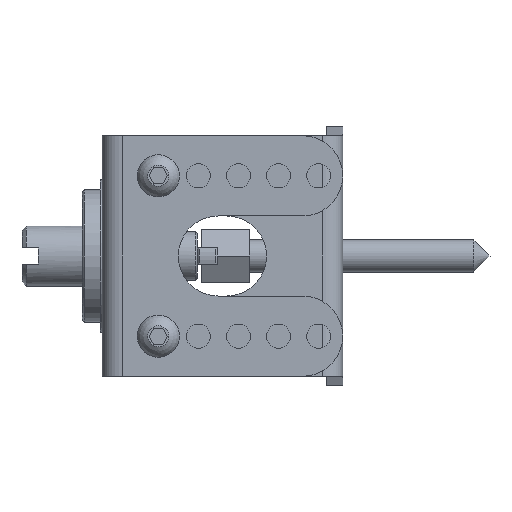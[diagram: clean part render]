
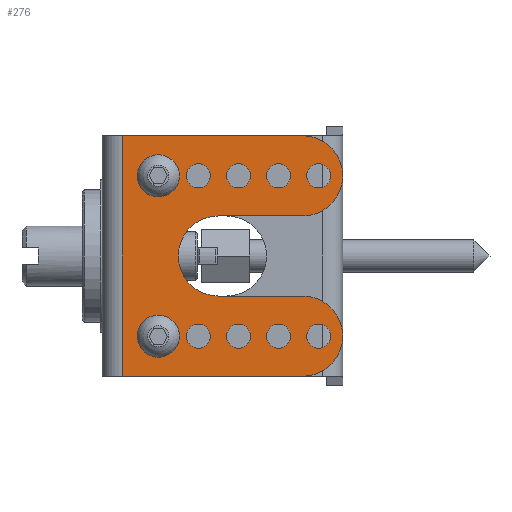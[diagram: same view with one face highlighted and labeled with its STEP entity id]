
A CAD part, left-side view. The second image highlights one B-rep face of the part: STEP entity #276.
In plain terms, the highlighted planar face has unit normal (-1, 0, 0).
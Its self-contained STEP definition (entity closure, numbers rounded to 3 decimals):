
#276 = ADVANCED_FACE( '', ( #545, #546, #547, #548, #549, #550, #551, #552, #553, #554, #555 ), #556, .F. );
#545 = FACE_BOUND( '', #1043, .T. );
#546 = FACE_BOUND( '', #1044, .T. );
#547 = FACE_BOUND( '', #1045, .T. );
#548 = FACE_BOUND( '', #1046, .T. );
#549 = FACE_BOUND( '', #1047, .T. );
#550 = FACE_BOUND( '', #1048, .T. );
#551 = FACE_BOUND( '', #1049, .T. );
#552 = FACE_BOUND( '', #1050, .T. );
#553 = FACE_BOUND( '', #1051, .T. );
#554 = FACE_BOUND( '', #1052, .T. );
#555 = FACE_OUTER_BOUND( '', #1053, .T. );
#556 = PLANE( '', #1054 );
#1043 = EDGE_LOOP( '', ( #1689 ) );
#1044 = EDGE_LOOP( '', ( #1690 ) );
#1045 = EDGE_LOOP( '', ( #1691 ) );
#1046 = EDGE_LOOP( '', ( #1692 ) );
#1047 = EDGE_LOOP( '', ( #1693 ) );
#1048 = EDGE_LOOP( '', ( #1694 ) );
#1049 = EDGE_LOOP( '', ( #1695 ) );
#1050 = EDGE_LOOP( '', ( #1696 ) );
#1051 = EDGE_LOOP( '', ( #1697 ) );
#1052 = EDGE_LOOP( '', ( #1698 ) );
#1053 = EDGE_LOOP( '', ( #1699, #1700, #1701, #1702, #1703, #1704, #1705, #1706 ) );
#1054 = AXIS2_PLACEMENT_3D( '', #1707, #1708, #1709 );
#1689 = ORIENTED_EDGE( '', *, *, #2964, .F. );
#1690 = ORIENTED_EDGE( '', *, *, #2888, .F. );
#1691 = ORIENTED_EDGE( '', *, *, #2965, .T. );
#1692 = ORIENTED_EDGE( '', *, *, #2966, .T. );
#1693 = ORIENTED_EDGE( '', *, *, #2967, .T. );
#1694 = ORIENTED_EDGE( '', *, *, #2968, .T. );
#1695 = ORIENTED_EDGE( '', *, *, #2969, .T. );
#1696 = ORIENTED_EDGE( '', *, *, #2970, .T. );
#1697 = ORIENTED_EDGE( '', *, *, #2971, .T. );
#1698 = ORIENTED_EDGE( '', *, *, #2972, .T. );
#1699 = ORIENTED_EDGE( '', *, *, #2973, .F. );
#1700 = ORIENTED_EDGE( '', *, *, #2946, .F. );
#1701 = ORIENTED_EDGE( '', *, *, #2974, .F. );
#1702 = ORIENTED_EDGE( '', *, *, #2975, .F. );
#1703 = ORIENTED_EDGE( '', *, *, #2976, .F. );
#1704 = ORIENTED_EDGE( '', *, *, #2977, .T. );
#1705 = ORIENTED_EDGE( '', *, *, #2978, .F. );
#1706 = ORIENTED_EDGE( '', *, *, #2979, .F. );
#1707 = CARTESIAN_POINT( '', ( 0., 10., 20. ) );
#1708 = DIRECTION( '', ( 1., 0., 0. ) );
#1709 = DIRECTION( '', ( 0., 0., -1. ) );
#2888 = EDGE_CURVE( '', #3341, #3341, #3342, .F. );
#2946 = EDGE_CURVE( '', #3444, #3446, #3447, .T. );
#2964 = EDGE_CURVE( '', #3480, #3480, #3481, .F. );
#2965 = EDGE_CURVE( '', #3482, #3482, #3483, .T. );
#2966 = EDGE_CURVE( '', #3484, #3484, #3485, .T. );
#2967 = EDGE_CURVE( '', #3486, #3486, #3487, .T. );
#2968 = EDGE_CURVE( '', #3488, #3488, #3489, .T. );
#2969 = EDGE_CURVE( '', #3490, #3490, #3491, .T. );
#2970 = EDGE_CURVE( '', #3492, #3492, #3493, .T. );
#2971 = EDGE_CURVE( '', #3494, #3494, #3495, .T. );
#2972 = EDGE_CURVE( '', #3496, #3496, #3497, .T. );
#2973 = EDGE_CURVE( '', #3446, #3498, #3499, .T. );
#2974 = EDGE_CURVE( '', #3500, #3444, #3501, .T. );
#2975 = EDGE_CURVE( '', #3502, #3500, #3503, .T. );
#2976 = EDGE_CURVE( '', #3504, #3502, #3505, .T. );
#2977 = EDGE_CURVE( '', #3504, #3506, #3507, .T. );
#2978 = EDGE_CURVE( '', #3508, #3506, #3509, .T. );
#2979 = EDGE_CURVE( '', #3498, #3508, #3510, .T. );
#3341 = VERTEX_POINT( '', #4102 );
#3342 = CIRCLE( '', #4103, 5.25 );
#3444 = VERTEX_POINT( '', #4228 );
#3446 = VERTEX_POINT( '', #4230 );
#3447 = LINE( '', #4231, #4232 );
#3480 = VERTEX_POINT( '', #4269 );
#3481 = CIRCLE( '', #4270, 5.25 );
#3482 = VERTEX_POINT( '', #4271 );
#3483 = CIRCLE( '', #4272, 3. );
#3484 = VERTEX_POINT( '', #4273 );
#3485 = CIRCLE( '', #4274, 3. );
#3486 = VERTEX_POINT( '', #4275 );
#3487 = CIRCLE( '', #4276, 3. );
#3488 = VERTEX_POINT( '', #4277 );
#3489 = CIRCLE( '', #4278, 3. );
#3490 = VERTEX_POINT( '', #4279 );
#3491 = CIRCLE( '', #4280, 3. );
#3492 = VERTEX_POINT( '', #4281 );
#3493 = CIRCLE( '', #4282, 3. );
#3494 = VERTEX_POINT( '', #4283 );
#3495 = CIRCLE( '', #4284, 3. );
#3496 = VERTEX_POINT( '', #4285 );
#3497 = CIRCLE( '', #4286, 3. );
#3498 = VERTEX_POINT( '', #4287 );
#3499 = LINE( '', #4288, #4289 );
#3500 = VERTEX_POINT( '', #4290 );
#3501 = LINE( '', #4291, #4292 );
#3502 = VERTEX_POINT( '', #4293 );
#3503 = CIRCLE( '', #4294, 10. );
#3504 = VERTEX_POINT( '', #4295 );
#3505 = LINE( '', #4296, #4297 );
#3506 = VERTEX_POINT( '', #4298 );
#3507 = CIRCLE( '', #4299, 10. );
#3508 = VERTEX_POINT( '', #4300 );
#3509 = LINE( '', #4301, #4302 );
#3510 = CIRCLE( '', #4303, 10. );
#4102 = CARTESIAN_POINT( '', ( 0., 46., -25.25 ) );
#4103 = AXIS2_PLACEMENT_3D( '', #5114, #5115, #5116 );
#4228 = CARTESIAN_POINT( '', ( 0., 55., -30. ) );
#4230 = CARTESIAN_POINT( '', ( 0., 55., 30. ) );
#4231 = CARTESIAN_POINT( '', ( 0., 55., -30. ) );
#4232 = VECTOR( '', #5242, 1000. );
#4269 = CARTESIAN_POINT( '', ( 0., 46., 14.75 ) );
#4270 = AXIS2_PLACEMENT_3D( '', #5286, #5287, #5288 );
#4271 = CARTESIAN_POINT( '', ( 0., 36., 17. ) );
#4272 = AXIS2_PLACEMENT_3D( '', #5289, #5290, #5291 );
#4273 = CARTESIAN_POINT( '', ( 0., 26., 17. ) );
#4274 = AXIS2_PLACEMENT_3D( '', #5292, #5293, #5294 );
#4275 = CARTESIAN_POINT( '', ( 0., 16., 17. ) );
#4276 = AXIS2_PLACEMENT_3D( '', #5295, #5296, #5297 );
#4277 = CARTESIAN_POINT( '', ( 0., 6., 17. ) );
#4278 = AXIS2_PLACEMENT_3D( '', #5298, #5299, #5300 );
#4279 = CARTESIAN_POINT( '', ( 0., 36., -23. ) );
#4280 = AXIS2_PLACEMENT_3D( '', #5301, #5302, #5303 );
#4281 = CARTESIAN_POINT( '', ( 0., 26., -23. ) );
#4282 = AXIS2_PLACEMENT_3D( '', #5304, #5305, #5306 );
#4283 = CARTESIAN_POINT( '', ( 0., 16., -23. ) );
#4284 = AXIS2_PLACEMENT_3D( '', #5307, #5308, #5309 );
#4285 = CARTESIAN_POINT( '', ( 0., 6., -23. ) );
#4286 = AXIS2_PLACEMENT_3D( '', #5310, #5311, #5312 );
#4287 = CARTESIAN_POINT( '', ( 0., 10., 30. ) );
#4288 = CARTESIAN_POINT( '', ( 0., 55., 30. ) );
#4289 = VECTOR( '', #5313, 1000. );
#4290 = CARTESIAN_POINT( '', ( 0., 10., -30. ) );
#4291 = CARTESIAN_POINT( '', ( 0., 10., -30. ) );
#4292 = VECTOR( '', #5314, 1000. );
#4293 = CARTESIAN_POINT( '', ( 0., 10., -10. ) );
#4294 = AXIS2_PLACEMENT_3D( '', #5315, #5316, #5317 );
#4295 = CARTESIAN_POINT( '', ( 0., 31., -10. ) );
#4296 = CARTESIAN_POINT( '', ( 0., 31., -10. ) );
#4297 = VECTOR( '', #5318, 1000. );
#4298 = CARTESIAN_POINT( '', ( 0., 31., 10. ) );
#4299 = AXIS2_PLACEMENT_3D( '', #5319, #5320, #5321 );
#4300 = CARTESIAN_POINT( '', ( 0., 10., 10. ) );
#4301 = CARTESIAN_POINT( '', ( 0., 10., 10. ) );
#4302 = VECTOR( '', #5322, 1000. );
#4303 = AXIS2_PLACEMENT_3D( '', #5323, #5324, #5325 );
#5114 = CARTESIAN_POINT( '', ( 0., 46., -20. ) );
#5115 = DIRECTION( '', ( 1., 0., 0. ) );
#5116 = DIRECTION( '', ( 0., 0., -1. ) );
#5242 = DIRECTION( '', ( 0., 0., 1. ) );
#5286 = CARTESIAN_POINT( '', ( 0., 46., 20. ) );
#5287 = DIRECTION( '', ( 1., 0., 0. ) );
#5288 = DIRECTION( '', ( 0., 0., -1. ) );
#5289 = CARTESIAN_POINT( '', ( 0., 36., 20. ) );
#5290 = DIRECTION( '', ( 1., 0., 0. ) );
#5291 = DIRECTION( '', ( 0., 0., -1. ) );
#5292 = CARTESIAN_POINT( '', ( 0., 26., 20. ) );
#5293 = DIRECTION( '', ( 1., 0., 0. ) );
#5294 = DIRECTION( '', ( 0., 0., -1. ) );
#5295 = CARTESIAN_POINT( '', ( 0., 16., 20. ) );
#5296 = DIRECTION( '', ( 1., 0., 0. ) );
#5297 = DIRECTION( '', ( 0., 0., -1. ) );
#5298 = CARTESIAN_POINT( '', ( 0., 6., 20. ) );
#5299 = DIRECTION( '', ( 1., 0., 0. ) );
#5300 = DIRECTION( '', ( 0., 0., -1. ) );
#5301 = CARTESIAN_POINT( '', ( 0., 36., -20. ) );
#5302 = DIRECTION( '', ( 1., 0., 0. ) );
#5303 = DIRECTION( '', ( 0., 0., -1. ) );
#5304 = CARTESIAN_POINT( '', ( 0., 26., -20. ) );
#5305 = DIRECTION( '', ( 1., 0., 0. ) );
#5306 = DIRECTION( '', ( 0., 0., -1. ) );
#5307 = CARTESIAN_POINT( '', ( 0., 16., -20. ) );
#5308 = DIRECTION( '', ( 1., 0., 0. ) );
#5309 = DIRECTION( '', ( 0., 0., -1. ) );
#5310 = CARTESIAN_POINT( '', ( 0., 6., -20. ) );
#5311 = DIRECTION( '', ( 1., 0., 0. ) );
#5312 = DIRECTION( '', ( 0., 0., -1. ) );
#5313 = DIRECTION( '', ( 0., -1., 0. ) );
#5314 = DIRECTION( '', ( 0., 1., 0. ) );
#5315 = CARTESIAN_POINT( '', ( 0., 10., -20. ) );
#5316 = DIRECTION( '', ( 1., 0., 0. ) );
#5317 = DIRECTION( '', ( 0., 0., -1. ) );
#5318 = DIRECTION( '', ( 0., -1., 0. ) );
#5319 = CARTESIAN_POINT( '', ( 0., 31., 0. ) );
#5320 = DIRECTION( '', ( 1., 0., 0. ) );
#5321 = DIRECTION( '', ( 0., 0., -1. ) );
#5322 = DIRECTION( '', ( 0., 1., 0. ) );
#5323 = CARTESIAN_POINT( '', ( 0., 10., 20. ) );
#5324 = DIRECTION( '', ( 1., 0., 0. ) );
#5325 = DIRECTION( '', ( 0., 0., -1. ) );
